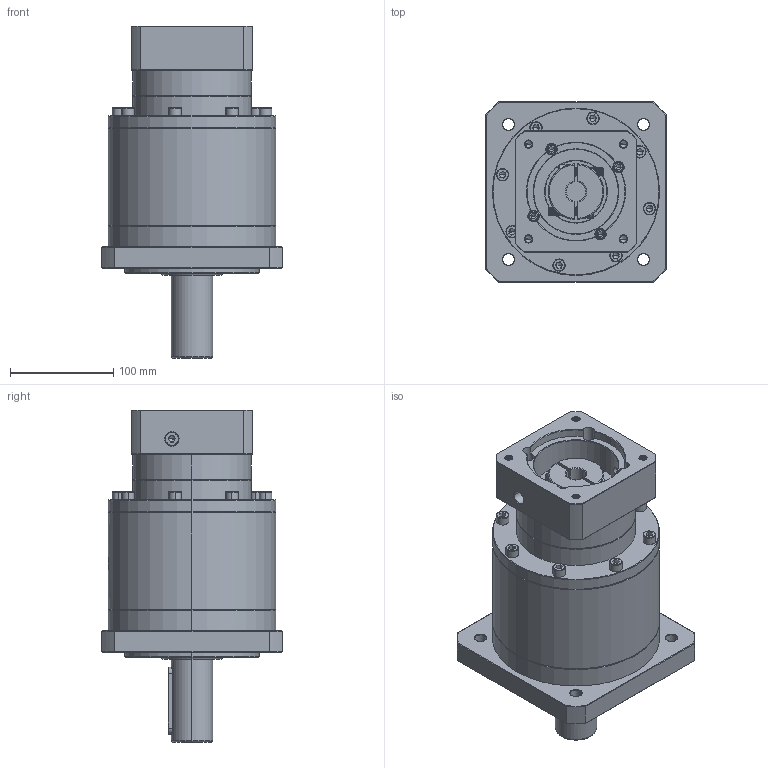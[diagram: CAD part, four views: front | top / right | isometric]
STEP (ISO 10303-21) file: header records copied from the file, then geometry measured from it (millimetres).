
FILE_DESCRIPTION (( 'STEP AP214' ), '1' );
FILE_NAME ('ZF160A-D40-L3-P2-19-95-130-M8.step', '2023-09-03T07:55:41', ( '' ), ( '' ), 'SwSTEP 2.0', 'SolidWorks 2016', '' );
FILE_SCHEMA (( 'AUTOMOTIVE_DESIGN' ));
Length unit declared in the file: millimetre
Products named in the file (1): ZF160A-D40-L3-P2-19-95-130-M8
Bounding box: 175 x 175 x 321.7 mm (x, y, z)
Volume: 4211177 mm3; surface area: 281281.1 mm2
Topology: 6 solids, 6 shells, 2433 faces, 6405 edges, 4095 vertices
Faces by surface type: plane 1119, cylinder 490, bspline 405, cone 361, torus 58
Entity records: 131895 total; most frequent: CARTESIAN_POINT 50287, ORIENTED_EDGE 12702, DIRECTION 9663, EDGE_CURVE 6351, VERTEX_POINT 4095, LINE 3383, VECTOR 3383, AXIS2_PLACEMENT_3D 3140
